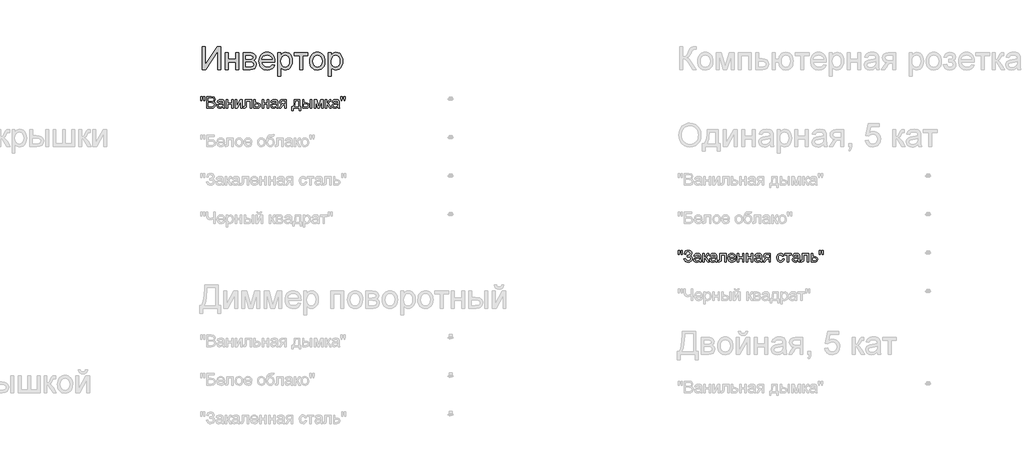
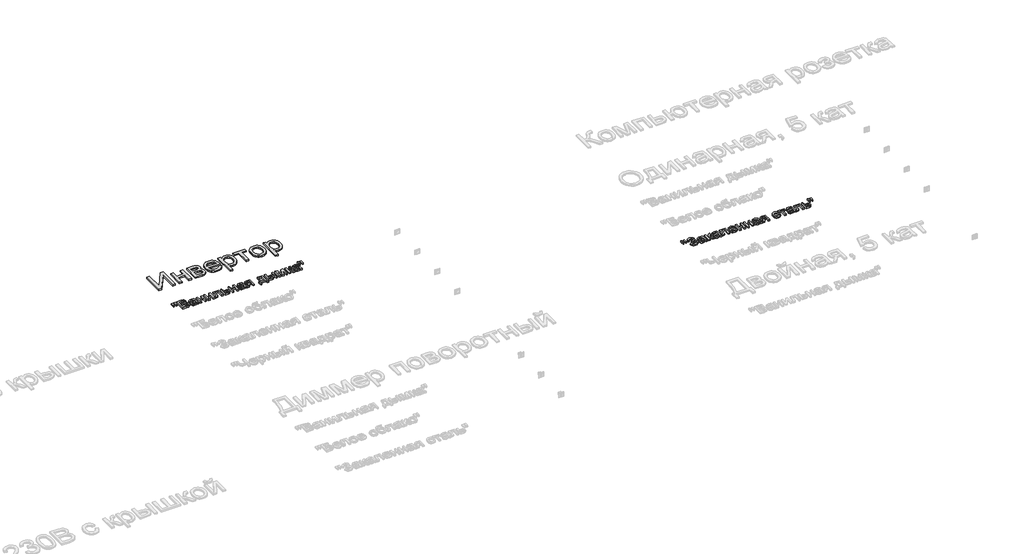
# One storey, part 165 of 168: 3 proxies.
"""IFC4 building model written with IfcOpenShell, lengths in millimetres."""

from ifc_helpers import new_model, si_unit, origin, origin_with_axes, place, context, project, spatial, polyline, outline, extrude, element, save

model = new_model("IFC4")

# Units and contexts
model_context = context("Model", 3, world=origin())
ifc_project = project(units=[si_unit("LENGTHUNIT", "METRE", prefix="MILLI")], contexts=[model_context])

# Site, building, storey
site = spatial("IfcSite", under=ifc_project)
building = spatial("IfcBuilding", under=site)
storey = spatial("IfcBuildingStorey", under=building, Name="Этаж 01", Elevation=0.0)

# Proxies
placement = place(None, origin())
element("IfcBuildingElementProxy", 1, Name="300 мм Arial 2", ObjectType="300 мм Arial 2", at=placement, inside=storey, context=model_context, shape_type="SweptSolid", body=[
    extrude(outline(polyline([(71099.0945017, -4747.0367511), (71136.765618, -4747.0367511), (71136.765618, -4985.7185896), (71294.5134175, -4747.0367511), (71334.5389786, -4747.0367511), (71334.5389786, -5048.4056816), (71296.8678623, -5048.4056816), (71296.8678623, -4810.3860307), (71139.4879447, -5048.4056816), (71099.0945017, -5048.4056816), (71099.0945017, -4747.0367511)])), origin_with_axes(), (0.0, 0.0, 1.0), 20.0),
    extrude(outline(polyline([(71395.7545426, -4827.0878733), (71433.4256589, -4827.0878733), (71433.4256589, -4911.847885), (71532.3123392, -4911.847885), (71532.3123392, -4827.0878733), (71569.9834555, -4827.0878733), (71569.9834555, -5048.4056816), (71532.3123392, -5048.4056816), (71532.3123392, -4949.5190013), (71433.4256589, -4949.5190013), (71433.4256589, -5048.4056816), (71395.7545426, -5048.4056816), (71395.7545426, -4827.0878733)])), origin_with_axes(), (0.0, 0.0, 1.0), 20.0),
    extrude(outline(polyline([(71626.4901299, -4827.0878733), (71709.4843081, -4827.0878733), (71736.1649498, -4828.3478691), (71754.9913109, -4832.1278566), (71768.842068, -4839.2647673), (71780.5958977, -4850.5955328), (71788.6249223, -4865.3567978), (71791.3012638, -4882.7852073), (71789.682583, -4896.8291025), (71784.8265407, -4908.9416172), (71776.7147427, -4919.1779337), (71765.3287949, -4927.5932344), (71779.2715225, -4935.4199238), (71790.6390762, -4948.0106851), (71798.1990512, -4964.3722368), (71800.7190429, -4983.5112976), (71794.3362902, -5012.2244873), (71779.1611579, -5032.439603), (71755.1384637, -5044.4141619), (71722.2130251, -5048.4056816), (71626.4901299, -5048.4056816), (71626.4901299, -4827.0878733)]), holes=[polyline([(71664.1612462, -4911.847885), (71701.3909042, -4911.847885), (71732.1090508, -4909.9348986), (71747.0450598, -4902.2829531), (71751.9838755, -4895.9553828), (71753.6301475, -4888.4505901), (71750.7422738, -4877.2117951), (71742.0786528, -4869.9829139), (71726.4252739, -4866.0649707), (71702.5681265, -4864.7589896), (71664.1612462, -4864.7589896), (71664.1612462, -4911.847885)]), polyline([(71664.1612462, -5010.7345653), (71710.3672248, -5010.7345653), (71735.5487474, -5009.033111), (71751.3492791, -5003.9287484), (71759.8289591, -4994.648925), (71763.0479266, -4980.4210889), (71761.4384428, -4970.9941127), (71756.6099916, -4962.2845065), (71749.1971694, -4955.4694925), (71739.8345727, -4951.7262932), (71706.6884049, -4949.5190013), (71664.1612462, -4949.5190013), (71664.1612462, -5010.7345653)])]), origin_with_axes(), (0.0, 0.0, 1.0), 20.0),
    extrude(outline(polyline([(72002.7598346, -4982.481228), (72039.6951869, -4987.1901176), (72026.3870558, -5015.0203905), (72005.1510676, -5035.8241173), (71976.465469, -5048.7919577), (71940.8085066, -5053.1145711), (71917.4342044, -5051.2498692), (71896.6074849, -5045.6557637), (71878.3283483, -5036.3322543), (71862.5967944, -5023.2793413), (71849.9462523, -5006.860308), (71840.9101508, -4987.4384379), (71835.4884899, -4965.013731), (71833.6812696, -4939.5861874), (71835.506884, -4913.2964203), (71840.9837272, -4890.1244531), (71850.1117992, -4870.0702859), (71862.8911, -4853.1339185), (71878.5812671, -4839.6786346), (71896.441938, -4830.0677174), (71916.4731126, -4824.3011672), (71938.6747911, -4822.3789837), (71960.1613988, -4824.2965686), (71979.592466, -4830.0493233), (71996.9679924, -4839.6372478), (72012.2879783, -4853.0603421), (72024.7936669, -4869.9599213), (72033.7263016, -4889.9773003), (72039.0858824, -4913.1124793), (72040.8724093, -4939.3654582), (72040.6516801, -4949.5190013), (71871.3523859, -4949.5190013), (71877.8730943, -4977.7171562), (71893.0206354, -4998.4473066), (71914.882023, -5011.1944178), (71941.5442706, -5015.4434548), (71961.5938393, -5013.4752861), (71978.4796229, -5007.5707801), (71992.2016213, -4997.3620547), (72002.7598346, -4982.481228)]), holes=[polyline([(71871.3523859, -4911.847885), (72003.201293, -4911.847885), (71998.1061274, -4891.945469), (71988.1181312, -4877.7084358), (71966.1555761, -4864.464684), (71938.5276383, -4860.0501), (71913.1345835, -4863.5725701), (71892.1377187, -4874.1399805), (71877.5420005, -4890.6118968), (71871.3523859, -4911.847885)])]), origin_with_axes(), (0.0, 0.0, 1.0), 20.0),
    extrude(outline(polyline([(72078.5435256, -5133.1656933), (72078.5435256, -4827.0878733), (72116.2146419, -4827.0878733), (72116.2146419, -4864.0232256), (72128.5019006, -4845.8038698), (72142.2606872, -4832.7900442), (72158.3003422, -4824.9817488), (72177.4302059, -4822.3789837), (72202.9060341, -4826.0210155), (72225.1812889, -4836.9471107), (72243.3178713, -4854.4950819), (72256.3776821, -4878.0027414), (72264.2687509, -4905.7594379), (72266.8991071, -4936.0545202), (72263.92846, -4968.271786), (72255.0165187, -4997.0861432), (72240.4483917, -5021.0352611), (72220.5091876, -5038.6568087), (72197.2866366, -5049.5001305), (72172.8684692, -5053.1145711), (72155.5504243, -5050.695747), (72140.0901834, -5043.4392746), (72126.8556286, -5032.4855882), (72116.2146419, -5018.975122), (72116.2146419, -5133.1656933), (72078.5435256, -5133.1656933)]), holes=[polyline([(72116.2146419, -4939.512611), (72120.288935, -4973.2841782), (72132.5118143, -4996.9022022), (72150.5472291, -5010.8081417), (72172.0591288, -5015.4434548), (72193.9205164, -5010.6425948), (72212.4157837, -4996.2400147), (72225.024939, -4971.7574679), (72229.2279908, -4936.7167078), (72225.1261066, -4903.1290817), (72212.8204539, -4879.1799638), (72194.8126302, -4864.832566), (72173.6042332, -4860.0501), (72152.3130627, -4865.1360686), (72133.6154603, -4880.3939744), (72120.5648465, -4905.3455707), (72116.2146419, -4939.512611)])]), origin_with_axes(), (0.0, 0.0, 1.0), 20.0),
    extrude(outline(polyline([(72290.4435548, -4827.0878733), (72469.3813573, -4827.0878733), (72469.3813573, -4864.7589896), (72398.7480142, -4864.7589896), (72398.7480142, -5048.4056816), (72361.0768979, -5048.4056816), (72361.0768979, -4864.7589896), (72290.4435548, -4864.7589896), (72290.4435548, -4827.0878733)])), origin_with_axes(), (0.0, 0.0, 1.0), 20.0),
    extrude(outline(polyline([(72492.925805, -4937.7467774), (72494.9629515, -4909.0841715), (72501.0743912, -4884.385494), (72511.2601239, -4863.6507451), (72525.5201498, -4846.8799246), (72539.8767446, -4836.160763), (72555.7232616, -4828.504219), (72573.0597006, -4823.9102925), (72591.8860617, -4822.3789837), (72612.6690952, -4824.2436856), (72631.4609673, -4829.8377912), (72648.2616782, -4839.1613005), (72663.0712278, -4852.2142135), (72675.1584506, -4868.5550719), (72683.7921811, -4887.7424172), (72688.9724195, -4909.7762495), (72690.6991656, -4934.6565687), (72687.645745, -4972.7139611), (72678.4854834, -5001.6846682), (72663.485095, -5023.3805088), (72642.9112944, -5039.6133019), (72618.4747329, -5049.7392538), (72591.8860617, -5053.1145711), (72570.7995256, -5051.256767), (72551.8329095, -5045.6833548), (72534.9862133, -5036.3943344), (72520.2594372, -5023.3897059), (72508.3009731, -5006.8901984), (72499.759213, -4987.1165412), (72494.634157, -4964.0687342), (72492.925805, -4937.7467774)]), holes=[polyline([(72530.5969213, -4937.673201), (72534.9563229, -4971.7666649), (72548.0345279, -4996.0560737), (72567.7162146, -5010.5966095), (72591.8860617, -5015.4434548), (72615.9455442, -5010.5690184), (72635.5904427, -4995.9457091), (72648.6686476, -4971.3344036), (72653.0280493, -4936.4959786), (72648.6410565, -4903.3957961), (72635.4800781, -4879.4374812), (72615.8075884, -4864.8969453), (72591.8860617, -4860.0501), (72567.7162146, -4864.8785512), (72548.0345279, -4879.3639048), (72534.9563229, -4903.5981312), (72530.5969213, -4937.673201)])]), origin_with_axes(), (0.0, 0.0, 1.0), 20.0),
    extrude(outline(polyline([(72733.0791714, -5133.1656933), (72733.0791714, -4827.0878733), (72770.7502877, -4827.0878733), (72770.7502877, -4864.0232256), (72783.0375464, -4845.8038698), (72796.796333, -4832.7900442), (72812.835988, -4824.9817488), (72831.9658517, -4822.3789837), (72857.4416799, -4826.0210155), (72879.7169347, -4836.9471107), (72897.8535171, -4854.4950819), (72910.9133279, -4878.0027414), (72918.8043967, -4905.7594379), (72921.434753, -4936.0545202), (72918.4641059, -4968.271786), (72909.5521645, -4997.0861432), (72894.9840375, -5021.0352611), (72875.0448334, -5038.6568087), (72851.8222824, -5049.5001305), (72827.404115, -5053.1145711), (72810.0860701, -5050.695747), (72794.6258292, -5043.4392746), (72781.3912745, -5032.4855882), (72770.7502877, -5018.975122), (72770.7502877, -5133.1656933), (72733.0791714, -5133.1656933)]), holes=[polyline([(72770.7502877, -4939.512611), (72774.8245808, -4973.2841782), (72787.0474601, -4996.9022022), (72805.0828749, -5010.8081417), (72826.5947746, -5015.4434548), (72848.4561622, -5010.6425948), (72866.9514295, -4996.2400147), (72879.5605849, -4971.7574679), (72883.7636367, -4936.7167078), (72879.6617524, -4903.1290817), (72867.3560997, -4879.1799638), (72849.348276, -4864.832566), (72828.139879, -4860.0501), (72806.8487085, -4865.1360686), (72788.1511061, -4880.3939744), (72775.1004923, -4905.3455707), (72770.7502877, -4939.512611)])]), origin_with_axes(), (0.0, 0.0, 1.0), 20.0),
])
element("IfcBuildingElementProxy", 2, Name="150", ObjectType="150", at=placement, inside=storey, context=model_context, shape_type="SweptSolid", body=[
    extrude(outline(polyline([(71080.1485789, -5451.873446), (71075.550054, -5422.7739802), (71075.550054, -5397.7212163), (71094.3856121, -5397.7212163), (71094.3856121, -5422.7739802), (71090.2653338, -5451.873446), (71080.1485789, -5451.873446)])), origin_with_axes(), (0.0, 0.0, 1.0), 20.0),
    extrude(outline(polyline([(71117.7093306, -5451.873446), (71113.2211703, -5422.7739802), (71113.2211703, -5397.7212163), (71132.0567284, -5397.7212163), (71132.0567284, -5422.7739802), (71127.6421445, -5451.873446), (71117.7093306, -5451.873446)])), origin_with_axes(), (0.0, 0.0, 1.0), 20.0),
    extrude(outline(polyline([(71157.9556209, -5548.4056816), (71157.9556209, -5397.7212163), (71215.4555767, -5397.7212163), (71243.6169435, -5402.1541944), (71253.0807078, -5407.7781904), (71260.2452096, -5415.7842223), (71266.2600803, -5435.0612389), (71261.2017028, -5452.6643923), (71245.9162059, -5466.0001146), (71256.5893823, -5471.5735269), (71264.4758526, -5480.0532069), (71269.3456905, -5490.8781346), (71270.9689698, -5503.48729), (71266.5359918, -5523.7391938), (71255.5547142, -5538.160168), (71239.1655713, -5545.8121135), (71215.0141183, -5548.4056816), (71157.9556209, -5548.4056816)]), holes=[polyline([(71176.791179, -5458.9367803), (71211.1881456, -5458.9367803), (71231.2745025, -5457.3180996), (71243.3594261, -5450.3467358), (71247.4245221, -5438.0778712), (71243.6353376, -5425.7906126), (71232.7828187, -5418.5249432), (71208.5761834, -5416.5567745), (71176.791179, -5416.5567745), (71176.791179, -5458.9367803)]), polyline([(71176.791179, -5529.5701234), (71215.4187885, -5529.5701234), (71229.3983043, -5528.8343594), (71241.2257105, -5524.7324752), (71249.061597, -5516.3631598), (71252.1334117, -5503.671231), (71248.5281681, -5489.0295275), (71236.8479148, -5480.2923302), (71213.5793786, -5477.7723385), (71176.791179, -5477.7723385), (71176.791179, -5529.5701234)])]), origin_with_axes(), (0.0, 0.0, 1.0), 20.0),
    extrude(outline(polyline([(71365.1467606, -5534.279013), (71346.8814195, -5547.0445182), (71326.7030921, -5550.7601263), (71310.9623412, -5548.5252432), (71299.3510657, -5541.8205939), (71292.1911624, -5531.6394596), (71289.804528, -5518.975122), (71293.4097715, -5504.0759012), (71302.8827329, -5493.2601705), (71316.0713024, -5487.079753), (71332.3684748, -5484.2470616), (71365.036396, -5477.7723385), (71365.1467606, -5473.5784838), (71363.8499765, -5465.1723802), (71359.9596244, -5459.6725443), (71351.2592153, -5455.5890542), (71339.1375035, -5454.2278908), (71320.0812162, -5457.8515285), (71310.9945309, -5470.7090042), (71292.1589727, -5468.3545594), (71300.3075589, -5449.9604597), (71316.7150959, -5439.1815172), (71341.5655247, -5435.3923327), (71364.3926025, -5438.7400588), (71377.2868664, -5447.1461624), (71383.0626137, -5459.9300617), (71383.9823187, -5476.4111751), (71383.9823187, -5499.8452582), (71384.9388119, -5532.5683617), (71388.6912083, -5548.4056816), (71369.8556501, -5548.4056816), (71365.1467606, -5534.279013)]), holes=[polyline([(71365.1467606, -5496.6078966), (71334.7597078, -5502.383644), (71318.5545059, -5505.4370645), (71311.2152601, -5510.4034715), (71308.6400861, -5517.6507468), (71314.2502865, -5527.841078), (71330.7130058, -5531.9245682), (71349.7692932, -5527.4180137), (71362.0565518, -5516.5103126), (71365.036396, -5501.9421856), (71365.1467606, -5496.6078966)])]), origin_with_axes(), (0.0, 0.0, 1.0), 20.0),
    extrude(outline(polyline([(71409.8812112, -5437.7467774), (71428.7167693, -5437.7467774), (71428.7167693, -5480.1267833), (71478.1601095, -5480.1267833), (71478.1601095, -5437.7467774), (71496.9956676, -5437.7467774), (71496.9956676, -5548.4056816), (71478.1601095, -5548.4056816), (71478.1601095, -5498.9623414), (71428.7167693, -5498.9623414), (71428.7167693, -5548.4056816), (71409.8812112, -5548.4056816), (71409.8812112, -5437.7467774)])), origin_with_axes(), (0.0, 0.0, 1.0), 20.0),
    extrude(outline(polyline([(71525.2490049, -5437.7467774), (71544.084563, -5437.7467774), (71544.084563, -5522.1389071), (71590.364118, -5437.7467774), (71614.7179061, -5437.7467774), (71614.7179061, -5548.4056816), (71595.8823479, -5548.4056816), (71595.8823479, -5464.5285867), (71549.8970985, -5548.4056816), (71525.2490049, -5548.4056816), (71525.2490049, -5437.7467774)])), origin_with_axes(), (0.0, 0.0, 1.0), 20.0),
    extrude(outline(polyline([(71652.3890224, -5437.7467774), (71737.1490341, -5437.7467774), (71737.1490341, -5548.295317), (71718.3134759, -5548.295317), (71718.3134759, -5456.5823356), (71671.2245806, -5456.5823356), (71671.2245806, -5509.3734019), (71669.9553877, -5533.72719), (71662.9840239, -5544.0094917), (71646.5029105, -5548.4056816), (71631.1990195, -5547.4491884), (71631.1990195, -5529.5701234), (71639.6235172, -5529.5701234), (71648.1399854, -5528.4112951), (71651.5428938, -5524.7324752), (71652.3890224, -5508.3065441), (71652.3890224, -5437.7467774)])), origin_with_axes(), (0.0, 0.0, 1.0), 20.0),
    extrude(outline(polyline([(71765.4023713, -5437.7467774), (71784.2379295, -5437.7467774), (71784.2379295, -5477.7723385), (71805.9429672, -5477.7723385), (71824.7601312, -5480.1313818), (71838.6844648, -5487.2085117), (71847.2929034, -5498.433511), (71850.162383, -5513.2361628), (71847.7205663, -5526.7144394), (71840.395116, -5538.0865916), (71827.6985887, -5545.8259091), (71809.1435405, -5548.4056816), (71765.4023713, -5548.4056816), (71765.4023713, -5437.7467774)]), holes=[polyline([(71784.2379295, -5529.5701234), (71801.8226888, -5529.5701234), (71824.539402, -5525.615392), (71829.6299692, -5520.552416), (71831.3268249, -5513.272951), (71826.3052356, -5501.6846682), (71818.2348244, -5497.8770895), (71804.066769, -5496.6078966), (71784.2379295, -5496.6078966), (71784.2379295, -5529.5701234)])]), origin_with_axes(), (0.0, 0.0, 1.0), 20.0),
    extrude(outline(polyline([(71873.7068307, -5437.7467774), (71892.5423889, -5437.7467774), (71892.5423889, -5480.1267833), (71941.985729, -5480.1267833), (71941.985729, -5437.7467774), (71960.8212872, -5437.7467774), (71960.8212872, -5548.4056816), (71941.985729, -5548.4056816), (71941.985729, -5498.9623414), (71892.5423889, -5498.9623414), (71892.5423889, -5548.4056816), (71873.7068307, -5548.4056816), (71873.7068307, -5437.7467774)])), origin_with_axes(), (0.0, 0.0, 1.0), 20.0),
    extrude(outline(polyline([(72059.7079675, -5534.279013), (72041.4426264, -5547.0445182), (72021.264299, -5550.7601263), (72005.5235481, -5548.5252432), (71993.9122726, -5541.8205939), (71986.7523693, -5531.6394596), (71984.3657349, -5518.975122), (71987.9709784, -5504.0759012), (71997.4439398, -5493.2601705), (72010.6325093, -5487.079753), (72026.9296817, -5484.2470616), (72059.5976029, -5477.7723385), (72059.7079675, -5473.5784838), (72058.4111834, -5465.1723802), (72054.5208313, -5459.6725443), (72045.8204221, -5455.5890542), (72033.6987104, -5454.2278908), (72014.6424231, -5457.8515285), (72005.5557378, -5470.7090042), (71986.7201796, -5468.3545594), (71994.8687658, -5449.9604597), (72011.2763028, -5439.1815172), (72036.1267316, -5435.3923327), (72058.9538094, -5438.7400588), (72071.8480733, -5447.1461624), (72077.6238206, -5459.9300617), (72078.5435256, -5476.4111751), (72078.5435256, -5499.8452582), (72079.5000188, -5532.5683617), (72083.2524152, -5548.4056816), (72064.416857, -5548.4056816), (72059.7079675, -5534.279013)]), holes=[polyline([(72059.7079675, -5496.6078966), (72029.3209147, -5502.383644), (72013.1157128, -5505.4370645), (72005.776467, -5510.4034715), (72003.201293, -5517.6507468), (72008.8114934, -5527.841078), (72025.2742127, -5531.9245682), (72044.3305001, -5527.4180137), (72056.6177587, -5516.5103126), (72059.5976029, -5501.9421856), (72059.7079675, -5496.6078966)])]), origin_with_axes(), (0.0, 0.0, 1.0), 20.0),
    extrude(outline(polyline([(72189.2024298, -5437.7467774), (72189.2024298, -5548.4056816), (72170.3668716, -5548.4056816), (72170.3668716, -5506.0256757), (72160.1029639, -5506.0256757), (72146.1234481, -5508.4169087), (72132.9900609, -5524.4933519), (72117.9804755, -5548.4056816), (72096.2018614, -5548.4056816), (72115.1109959, -5518.1657816), (72123.4619172, -5507.3132627), (72131.1506509, -5502.4940086), (72118.2747811, -5498.5484742), (72109.224884, -5491.0528785), (72103.872201, -5481.0832765), (72102.0879733, -5469.7157228), (72104.5251915, -5456.8214589), (72111.8368462, -5446.6127335), (72123.7654199, -5439.9632664), (72140.0533952, -5437.7467774), (72189.2024298, -5437.7467774)]), holes=[polyline([(72170.3668716, -5456.5823356), (72145.5348369, -5456.5823356), (72132.7095509, -5457.672186), (72125.4300859, -5460.9417372), (72120.9235315, -5471.1504626), (72122.583599, -5478.32876), (72127.5638015, -5483.3089625), (72151.0898551, -5487.1901176), (72170.3668716, -5487.1901176), (72170.3668716, -5456.5823356)])]), origin_with_axes(), (0.0, 0.0, 1.0), 20.0),
    extrude(outline(polyline([(72292.7979996, -5437.7467774), (72363.4313427, -5437.7467774), (72363.4313427, -5529.5701234), (72377.5580113, -5529.5701234), (72377.5580113, -5579.0134636), (72358.7224531, -5579.0134636), (72358.7224531, -5548.4056816), (72281.0257758, -5548.4056816), (72281.0257758, -5579.0134636), (72262.1902176, -5579.0134636), (72262.1902176, -5529.5701234), (72273.9624415, -5529.5701234), (72282.5202964, -5514.105284), (72288.5121744, -5493.6464466), (72292.7979996, -5437.7467774)]), holes=[polyline([(72309.279113, -5456.5823356), (72304.864529, -5499.4957703), (72295.1524444, -5529.5701234), (72344.5957845, -5529.5701234), (72344.5957845, -5456.5823356), (72309.279113, -5456.5823356)])]), origin_with_axes(), (0.0, 0.0, 1.0), 20.0),
    extrude(outline(polyline([(72502.3435841, -5437.7467774), (72521.1791422, -5437.7467774), (72521.1791422, -5548.4056816), (72502.3435841, -5548.4056816), (72502.3435841, -5437.7467774)])), origin_with_axes(), (0.0, 0.0, 1.0), 20.0),
    extrude(outline(polyline([(72398.7480142, -5437.7467774), (72417.5835724, -5437.7467774), (72417.5835724, -5477.7723385), (72440.8705027, -5477.7723385), (72460.9982463, -5480.1313818), (72475.9112627, -5487.2085117), (72485.1405023, -5498.433511), (72488.2169154, -5513.2361628), (72485.637143, -5526.7144394), (72477.8978255, -5538.0865916), (72464.4931253, -5545.8259091), (72444.9172046, -5548.4056816), (72398.7480142, -5548.4056816), (72398.7480142, -5437.7467774)]), holes=[polyline([(72417.5835724, -5529.5701234), (72436.9341653, -5529.5701234), (72461.9133528, -5525.615392), (72467.5143562, -5520.552416), (72469.3813573, -5513.272951), (72463.8447333, -5501.6846682), (72454.9649816, -5497.8770895), (72439.3989747, -5496.6078966), (72417.5835724, -5496.6078966), (72417.5835724, -5529.5701234)])]), origin_with_axes(), (0.0, 0.0, 1.0), 20.0),
    extrude(outline(polyline([(72549.4324794, -5437.7467774), (72581.8428832, -5437.7467774), (72606.8220707, -5526.3327619), (72633.7510327, -5437.7467774), (72664.8002731, -5437.7467774), (72664.8002731, -5548.4056816), (72645.964715, -5548.4056816), (72645.964715, -5459.3046623), (72618.8886001, -5548.4056816), (72594.1669301, -5548.4056816), (72568.2680376, -5455.0372312), (72568.2680376, -5548.4056816), (72549.4324794, -5548.4056816), (72549.4324794, -5437.7467774)])), origin_with_axes(), (0.0, 0.0, 1.0), 20.0),
    extrude(outline(polyline([(72693.0536104, -5437.7467774), (72711.8891685, -5437.7467774), (72711.8891685, -5484.8356728), (72724.5075209, -5481.4511584), (72734.845005, -5461.7326835), (72743.4350496, -5444.7181412), (72751.0134187, -5439.1815172), (72764.7905994, -5437.7467774), (72768.395843, -5437.7467774), (72768.395843, -5456.6927002), (72763.3190714, -5456.5823356), (72754.1220216, -5458.5688983), (72747.6472984, -5470.9665216), (72740.0505352, -5484.3758203), (72729.4003515, -5490.9425139), (72741.2829399, -5498.2725627), (72752.9447992, -5513.7144094), (72773.1047325, -5548.4056816), (72751.6940004, -5548.4056816), (72731.9387373, -5514.4501734), (72722.0059234, -5500.0843815), (72711.8891685, -5496.6078966), (72711.8891685, -5548.4056816), (72693.0536104, -5548.4056816), (72693.0536104, -5437.7467774)])), origin_with_axes(), (0.0, 0.0, 1.0), 20.0),
    extrude(outline(polyline([(72855.5102994, -5534.279013), (72837.2449584, -5547.0445182), (72817.0666309, -5550.7601263), (72801.3258801, -5548.5252432), (72789.7146046, -5541.8205939), (72782.5547013, -5531.6394596), (72780.1680668, -5518.975122), (72783.7733104, -5504.0759012), (72793.2462717, -5493.2601705), (72806.4348413, -5487.079753), (72822.7320137, -5484.2470616), (72855.3999348, -5477.7723385), (72855.5102994, -5473.5784838), (72854.2135154, -5465.1723802), (72850.3231633, -5459.6725443), (72841.6227541, -5455.5890542), (72829.5010424, -5454.2278908), (72810.444755, -5457.8515285), (72801.3580697, -5470.7090042), (72782.5225116, -5468.3545594), (72790.6710978, -5449.9604597), (72807.0786348, -5439.1815172), (72831.9290635, -5435.3923327), (72854.7561413, -5438.7400588), (72867.6504053, -5447.1461624), (72873.4261526, -5459.9300617), (72874.3458576, -5476.4111751), (72874.3458576, -5499.8452582), (72875.3023508, -5532.5683617), (72879.0547471, -5548.4056816), (72860.219189, -5548.4056816), (72855.5102994, -5534.279013)]), holes=[polyline([(72855.5102994, -5496.6078966), (72825.1232466, -5502.383644), (72808.9180447, -5505.4370645), (72801.5787989, -5510.4034715), (72799.003625, -5517.6507468), (72804.6138254, -5527.841078), (72821.0765447, -5531.9245682), (72840.132832, -5527.4180137), (72852.4200907, -5516.5103126), (72855.3999348, -5501.9421856), (72855.5102994, -5496.6078966)])]), origin_with_axes(), (0.0, 0.0, 1.0), 20.0),
    extrude(outline(polyline([(72900.1343854, -5451.873446), (72895.5358605, -5422.7739802), (72895.5358605, -5397.7212163), (72914.3714187, -5397.7212163), (72914.3714187, -5422.7739802), (72910.2511403, -5451.873446), (72900.1343854, -5451.873446)])), origin_with_axes(), (0.0, 0.0, 1.0), 20.0),
    extrude(outline(polyline([(72937.6951372, -5451.873446), (72933.2069768, -5422.7739802), (72933.2069768, -5397.7212163), (72952.042535, -5397.7212163), (72952.042535, -5422.7739802), (72947.627951, -5451.873446), (72937.6951372, -5451.873446)])), origin_with_axes(), (0.0, 0.0, 1.0), 20.0),
])
element("IfcBuildingElementProxy", 3, Name="150", ObjectType="150", at=placement, inside=storey, context=model_context, shape_type="SweptSolid", body=[
    extrude(outline(polyline([(77280.1485789, -7451.873446), (77275.550054, -7422.7739802), (77275.550054, -7397.7212163), (77294.3856121, -7397.7212163), (77294.3856121, -7422.7739802), (77290.2653338, -7451.873446), (77280.1485789, -7451.873446)])), origin_with_axes(), (0.0, 0.0, 1.0), 20.0),
    extrude(outline(polyline([(77317.7093306, -7451.873446), (77313.2211703, -7422.7739802), (77313.2211703, -7397.7212163), (77332.0567284, -7397.7212163), (77332.0567284, -7422.7739802), (77327.6421445, -7451.873446), (77317.7093306, -7451.873446)])), origin_with_axes(), (0.0, 0.0, 1.0), 20.0),
    extrude(outline(polyline([(77350.8922866, -7506.0256757), (77369.7278447, -7501.3167862), (77381.2977335, -7521.7158428), (77392.2284273, -7529.3723868), (77406.2217387, -7531.9245682), (77420.398991, -7530.0069833), (77431.2193202, -7524.2542286), (77438.0757209, -7515.7883442), (77440.3611878, -7505.7313701), (77437.8641888, -7495.1961495), (77430.3731916, -7487.0613589), (77418.5779752, -7481.8604272), (77403.1683181, -7480.1267833), (77393.2722924, -7480.1267833), (77393.2722924, -7461.2912251), (77414.591054, -7459.7645148), (77427.6324708, -7451.9654165), (77433.2978535, -7437.7099892), (77431.4124583, -7428.8394346), (77425.7562726, -7421.2104817), (77416.8811195, -7415.9543677), (77405.3388219, -7414.2023297), (77386.1169876, -7419.591801), (77375.117316, -7433.8840165), (77372.0822895, -7447.1645565), (77353.2467313, -7442.455667), (77359.0983543, -7421.8542752), (77369.7002536, -7407.1389954), (77385.0524291, -7398.3098275), (77405.1548809, -7395.3667716), (77424.5468605, -7398.4247907), (77439.4598769, -7407.5988479), (77448.965028, -7420.8655924), (77452.1334117, -7436.201673), (77447.2037929, -7454.8440931), (77432.4149367, -7468.7592296), (77442.8903765, -7473.5830823), (77451.5080123, -7481.7270699), (77457.2745625, -7492.4922168), (77459.196746, -7505.1795471), (77455.508729, -7523.0172254), (77444.444678, -7537.6819214), (77427.2921799, -7547.4905751), (77405.3388219, -7550.7601263), (77386.2365493, -7547.9642232), (77370.7947025, -7539.5765137), (77359.0132816, -7525.5969979), (77350.8922866, -7506.0256757)])), origin_with_axes(), (0.0, 0.0, 1.0), 20.0),
    extrude(outline(polyline([(77553.3745367, -7534.279013), (77535.1091957, -7547.0445182), (77514.9308682, -7550.7601263), (77499.1901174, -7548.5252432), (77487.5788419, -7541.8205939), (77480.4189386, -7531.6394596), (77478.0323041, -7518.975122), (77481.6375477, -7504.0759012), (77491.110509, -7493.2601705), (77504.2990786, -7487.079753), (77520.596251, -7484.2470616), (77553.2641721, -7477.7723385), (77553.3745367, -7473.5784838), (77552.0777527, -7465.1723802), (77548.1874006, -7459.6725443), (77539.4869914, -7455.5890542), (77527.3652797, -7454.2278908), (77508.3089923, -7457.8515285), (77499.222307, -7470.7090042), (77480.3867489, -7468.3545594), (77488.5353351, -7449.9604597), (77504.9428721, -7439.1815172), (77529.7933008, -7435.3923327), (77552.6203786, -7438.7400588), (77565.5146426, -7447.1461624), (77571.2903899, -7459.9300617), (77572.2100949, -7476.4111751), (77572.2100949, -7499.8452582), (77573.1665881, -7532.5683617), (77576.9189844, -7548.4056816), (77558.0834263, -7548.4056816), (77553.3745367, -7534.279013)]), holes=[polyline([(77553.3745367, -7496.6078966), (77522.9874839, -7502.383644), (77506.782282, -7505.4370645), (77499.4430362, -7510.4034715), (77496.8678623, -7517.6507468), (77502.4780627, -7527.841078), (77518.940782, -7531.9245682), (77537.9970693, -7527.4180137), (77550.284328, -7516.5103126), (77553.2641721, -7501.9421856), (77553.3745367, -7496.6078966)])]), origin_with_axes(), (0.0, 0.0, 1.0), 20.0),
    extrude(outline(polyline([(77598.1089873, -7437.7467774), (77616.9445455, -7437.7467774), (77616.9445455, -7484.8356728), (77629.5628979, -7481.4511584), (77639.900382, -7461.7326835), (77648.4904266, -7444.7181412), (77656.0687957, -7439.1815172), (77669.8459764, -7437.7467774), (77673.4512199, -7437.7467774), (77673.4512199, -7456.6927002), (77668.3744484, -7456.5823356), (77659.1773985, -7458.5688983), (77652.7026754, -7470.9665216), (77645.1059122, -7484.3758203), (77634.4557285, -7490.9425139), (77646.3383169, -7498.2725627), (77658.0001762, -7513.7144094), (77678.1601095, -7548.4056816), (77656.7493774, -7548.4056816), (77636.9941142, -7514.4501734), (77627.0613004, -7500.0843815), (77616.9445455, -7496.6078966), (77616.9445455, -7548.4056816), (77598.1089873, -7548.4056816), (77598.1089873, -7437.7467774)])), origin_with_axes(), (0.0, 0.0, 1.0), 20.0),
    extrude(outline(polyline([(77760.5656764, -7534.279013), (77742.3003353, -7547.0445182), (77722.1220079, -7550.7601263), (77706.381257, -7548.5252432), (77694.7699816, -7541.8205939), (77687.6100782, -7531.6394596), (77685.2234438, -7518.975122), (77688.8286873, -7504.0759012), (77698.3016487, -7493.2601705), (77711.4902183, -7487.079753), (77727.7873906, -7484.2470616), (77760.4553118, -7477.7723385), (77760.5656764, -7473.5784838), (77759.2688924, -7465.1723802), (77755.3785403, -7459.6725443), (77746.6781311, -7455.5890542), (77734.5564193, -7454.2278908), (77715.500132, -7457.8515285), (77706.4134467, -7470.7090042), (77687.5778886, -7468.3545594), (77695.7264748, -7449.9604597), (77712.1340117, -7439.1815172), (77736.9844405, -7435.3923327), (77759.8115183, -7438.7400588), (77772.7057822, -7447.1461624), (77778.4815296, -7459.9300617), (77779.4012346, -7476.4111751), (77779.4012346, -7499.8452582), (77780.3577277, -7532.5683617), (77784.1101241, -7548.4056816), (77765.2745659, -7548.4056816), (77760.5656764, -7534.279013)]), holes=[polyline([(77760.5656764, -7496.6078966), (77730.1786236, -7502.383644), (77713.9734217, -7505.4370645), (77706.6341759, -7510.4034715), (77704.0590019, -7517.6507468), (77709.6692024, -7527.841078), (77726.1319217, -7531.9245682), (77745.188209, -7527.4180137), (77757.4754676, -7516.5103126), (77760.4553118, -7501.9421856), (77760.5656764, -7496.6078966)])]), origin_with_axes(), (0.0, 0.0, 1.0), 20.0),
    extrude(outline(polyline([(77814.7179061, -7437.7467774), (77899.4779178, -7437.7467774), (77899.4779178, -7548.295317), (77880.6423596, -7548.295317), (77880.6423596, -7456.5823356), (77833.5534643, -7456.5823356), (77833.5534643, -7509.3734019), (77832.2842714, -7533.72719), (77825.3129076, -7544.0094917), (77808.8317942, -7548.4056816), (77793.5279032, -7547.4491884), (77793.5279032, -7529.5701234), (77801.9524009, -7529.5701234), (77810.4688691, -7528.4112951), (77813.8717775, -7524.7324752), (77814.7179061, -7508.3065441), (77814.7179061, -7437.7467774)])), origin_with_axes(), (0.0, 0.0, 1.0), 20.0),
    extrude(outline(polyline([(78005.2072032, -7515.4434548), (78023.6748794, -7517.7978996), (78017.0208138, -7531.713036), (78006.4028197, -7542.1148995), (77992.0600204, -7548.5988196), (77974.2315392, -7550.7601263), (77952.1310283, -7547.0307226), (77935.1256831, -7535.8425114), (77924.2823613, -7517.9220597), (77920.6679207, -7493.9959345), (77924.3191495, -7469.2650674), (77935.2728359, -7450.7698), (77952.0482549, -7439.2366995), (77973.1646814, -7435.3923327), (77993.6235189, -7439.2275025), (78009.971275, -7450.7330118), (78020.6904367, -7469.191491), (78024.2634906, -7493.8855699), (78024.153126, -7498.9623414), (77939.5034789, -7498.9623414), (77942.763833, -7513.0614189), (77950.3376036, -7523.4264941), (77961.2682974, -7529.8000497), (77974.5994212, -7531.9245682), (77993.0670974, -7527.9882308), (78005.2072032, -7515.4434548)]), holes=[polyline([(77939.5034789, -7480.1267833), (78005.4279324, -7480.1267833), (78002.8803496, -7470.1755753), (77997.8863515, -7463.0570587), (77986.9050739, -7456.4351828), (77973.091105, -7454.2278908), (77960.3945777, -7455.9891259), (77949.8961452, -7461.272831), (77942.5982861, -7469.5087892), (77939.5034789, -7480.1267833)])]), origin_with_axes(), (0.0, 0.0, 1.0), 20.0),
    extrude(outline(polyline([(78043.0990487, -7437.7467774), (78061.9346069, -7437.7467774), (78061.9346069, -7480.1267833), (78111.377947, -7480.1267833), (78111.377947, -7437.7467774), (78130.2135052, -7437.7467774), (78130.2135052, -7548.4056816), (78111.377947, -7548.4056816), (78111.377947, -7498.9623414), (78061.9346069, -7498.9623414), (78061.9346069, -7548.4056816), (78043.0990487, -7548.4056816), (78043.0990487, -7437.7467774)])), origin_with_axes(), (0.0, 0.0, 1.0), 20.0),
    extrude(outline(polyline([(78158.4668424, -7437.7467774), (78177.3024005, -7437.7467774), (78177.3024005, -7480.1267833), (78226.7457407, -7480.1267833), (78226.7457407, -7437.7467774), (78245.5812988, -7437.7467774), (78245.5812988, -7548.4056816), (78226.7457407, -7548.4056816), (78226.7457407, -7498.9623414), (78177.3024005, -7498.9623414), (78177.3024005, -7548.4056816), (78158.4668424, -7548.4056816), (78158.4668424, -7437.7467774)])), origin_with_axes(), (0.0, 0.0, 1.0), 20.0),
    extrude(outline(polyline([(78344.4679792, -7534.279013), (78326.2026381, -7547.0445182), (78306.0243107, -7550.7601263), (78290.2835598, -7548.5252432), (78278.6722843, -7541.8205939), (78271.512381, -7531.6394596), (78269.1257465, -7518.975122), (78272.7309901, -7504.0759012), (78282.2039515, -7493.2601705), (78295.392521, -7487.079753), (78311.6896934, -7484.2470616), (78344.3576146, -7477.7723385), (78344.4679792, -7473.5784838), (78343.1711951, -7465.1723802), (78339.280843, -7459.6725443), (78330.5804338, -7455.5890542), (78318.4587221, -7454.2278908), (78299.4024347, -7457.8515285), (78290.3157495, -7470.7090042), (78271.4801913, -7468.3545594), (78279.6287775, -7449.9604597), (78296.0363145, -7439.1815172), (78320.8867433, -7435.3923327), (78343.7138211, -7438.7400588), (78356.608085, -7447.1461624), (78362.3838323, -7459.9300617), (78363.3035373, -7476.4111751), (78363.3035373, -7499.8452582), (78364.2600305, -7532.5683617), (78368.0124268, -7548.4056816), (78349.1768687, -7548.4056816), (78344.4679792, -7534.279013)]), holes=[polyline([(78344.4679792, -7496.6078966), (78314.0809264, -7502.383644), (78297.8757245, -7505.4370645), (78290.5364787, -7510.4034715), (78287.9613047, -7517.6507468), (78293.5715051, -7527.841078), (78310.0342244, -7531.9245682), (78329.0905118, -7527.4180137), (78341.3777704, -7516.5103126), (78344.3576146, -7501.9421856), (78344.4679792, -7496.6078966)])]), origin_with_axes(), (0.0, 0.0, 1.0), 20.0),
    extrude(outline(polyline([(78473.9624415, -7437.7467774), (78473.9624415, -7548.4056816), (78455.1268833, -7548.4056816), (78455.1268833, -7506.0256757), (78444.8629756, -7506.0256757), (78430.8834598, -7508.4169087), (78417.7500726, -7524.4933519), (78402.7404872, -7548.4056816), (78380.9618731, -7548.4056816), (78399.8710076, -7518.1657816), (78408.2219289, -7507.3132627), (78415.9106626, -7502.4940086), (78403.0347928, -7498.5484742), (78393.9848957, -7491.0528785), (78388.6322127, -7481.0832765), (78386.847985, -7469.7157228), (78389.2852032, -7456.8214589), (78396.5968579, -7446.6127335), (78408.5254316, -7439.9632664), (78424.8134069, -7437.7467774), (78473.9624415, -7437.7467774)]), holes=[polyline([(78455.1268833, -7456.5823356), (78430.2948486, -7456.5823356), (78417.4695626, -7457.672186), (78410.1900976, -7460.9417372), (78405.6835431, -7471.1504626), (78407.3436107, -7478.32876), (78412.3238132, -7483.3089625), (78435.8498668, -7487.1901176), (78455.1268833, -7487.1901176), (78455.1268833, -7456.5823356)])]), origin_with_axes(), (0.0, 0.0, 1.0), 20.0),
    extrude(outline(polyline([(78631.710241, -7508.3801205), (78650.5457991, -7510.7345653), (78645.2942837, -7527.4869916), (78635.4258491, -7540.1467308), (78621.8693976, -7548.1067774), (78605.5538311, -7550.7601263), (78585.518058, -7547.0583138), (78569.8508835, -7535.952876), (78559.7387272, -7517.9312568), (78556.3680084, -7493.4808997), (78557.8073467, -7476.7192763), (78562.1253616, -7462.192536), (78569.391031, -7450.4616989), (78579.6733328, -7442.087785), (78591.974387, -7437.0661957), (78605.2963137, -7435.3923327), (78621.2118085, -7437.6915951), (78633.9359271, -7444.5893825), (78643.0639991, -7455.7178129), (78648.1913544, -7470.7090042), (78629.3557962, -7473.063449), (78620.6185988, -7458.9551744), (78605.4434665, -7454.2278908), (78593.271171, -7456.5547444), (78583.6096701, -7463.5353053), (78577.3050924, -7475.5466524), (78575.2035665, -7492.9658649), (78577.2591072, -7510.6196021), (78583.4257291, -7522.672336), (78592.9124861, -7529.6115101), (78604.9284317, -7531.9245682), (78614.6819031, -7530.4806314), (78622.678738, -7526.1488209), (78628.4958721, -7518.8187721), (78631.710241, -7508.3801205)])), origin_with_axes(), (0.0, 0.0, 1.0), 20.0),
    extrude(outline(polyline([(78657.6091334, -7437.7467774), (78747.0780347, -7437.7467774), (78747.0780347, -7456.5823356), (78711.7613631, -7456.5823356), (78711.7613631, -7548.4056816), (78692.925805, -7548.4056816), (78692.925805, -7456.5823356), (78657.6091334, -7456.5823356), (78657.6091334, -7437.7467774)])), origin_with_axes(), (0.0, 0.0, 1.0), 20.0),
    extrude(outline(polyline([(78834.1924911, -7534.279013), (78815.9271501, -7547.0445182), (78795.7488226, -7550.7601263), (78780.0080718, -7548.5252432), (78768.3967963, -7541.8205939), (78761.236893, -7531.6394596), (78758.8502585, -7518.975122), (78762.4555021, -7504.0759012), (78771.9284634, -7493.2601705), (78785.117033, -7487.079753), (78801.4142054, -7484.2470616), (78834.0821265, -7477.7723385), (78834.1924911, -7473.5784838), (78832.8957071, -7465.1723802), (78829.005355, -7459.6725443), (78820.3049458, -7455.5890542), (78808.1832341, -7454.2278908), (78789.1269467, -7457.8515285), (78780.0402614, -7470.7090042), (78761.2047033, -7468.3545594), (78769.3532895, -7449.9604597), (78785.7608265, -7439.1815172), (78810.6112552, -7435.3923327), (78833.438333, -7438.7400588), (78846.332597, -7447.1461624), (78852.1083443, -7459.9300617), (78853.0280493, -7476.4111751), (78853.0280493, -7499.8452582), (78853.9845425, -7532.5683617), (78857.7369388, -7548.4056816), (78838.9013807, -7548.4056816), (78834.1924911, -7534.279013)]), holes=[polyline([(78834.1924911, -7496.6078966), (78803.8054383, -7502.383644), (78787.6002364, -7505.4370645), (78780.2609906, -7510.4034715), (78777.6858167, -7517.6507468), (78783.2960171, -7527.841078), (78799.7587364, -7531.9245682), (78818.8150237, -7527.4180137), (78831.1022824, -7516.5103126), (78834.0821265, -7501.9421856), (78834.1924911, -7496.6078966)])]), origin_with_axes(), (0.0, 0.0, 1.0), 20.0),
    extrude(outline(polyline([(78888.3447208, -7437.7467774), (78973.1047325, -7437.7467774), (78973.1047325, -7548.295317), (78954.2691744, -7548.295317), (78954.2691744, -7456.5823356), (78907.180279, -7456.5823356), (78907.180279, -7509.3734019), (78905.9110861, -7533.72719), (78898.9397223, -7544.0094917), (78882.4586089, -7548.4056816), (78867.1547179, -7547.4491884), (78867.1547179, -7529.5701234), (78875.5792156, -7529.5701234), (78884.0956838, -7528.4112951), (78887.4985922, -7524.7324752), (78888.3447208, -7508.3065441), (78888.3447208, -7437.7467774)])), origin_with_axes(), (0.0, 0.0, 1.0), 20.0),
    extrude(outline(polyline([(79001.3580697, -7437.7467774), (79020.1936279, -7437.7467774), (79020.1936279, -7477.7723385), (79041.8986656, -7477.7723385), (79060.7158297, -7480.1313818), (79074.6401632, -7487.2085117), (79083.2486019, -7498.433511), (79086.1180814, -7513.2361628), (79083.6762647, -7526.7144394), (79076.3508145, -7538.0865916), (79063.6542871, -7545.8259091), (79045.099239, -7548.4056816), (79001.3580697, -7548.4056816), (79001.3580697, -7437.7467774)]), holes=[polyline([(79020.1936279, -7529.5701234), (79037.7783873, -7529.5701234), (79060.4951005, -7525.615392), (79065.5856676, -7520.552416), (79067.2825233, -7513.272951), (79062.260934, -7501.6846682), (79054.1905228, -7497.8770895), (79040.0224674, -7496.6078966), (79020.1936279, -7496.6078966), (79020.1936279, -7529.5701234)])]), origin_with_axes(), (0.0, 0.0, 1.0), 20.0),
    extrude(outline(polyline([(79109.5521645, -7451.873446), (79104.9536396, -7422.7739802), (79104.9536396, -7397.7212163), (79123.7891977, -7397.7212163), (79123.7891977, -7422.7739802), (79119.6689194, -7451.873446), (79109.5521645, -7451.873446)])), origin_with_axes(), (0.0, 0.0, 1.0), 20.0),
    extrude(outline(polyline([(79147.1129162, -7451.873446), (79142.6247559, -7422.7739802), (79142.6247559, -7397.7212163), (79161.460314, -7397.7212163), (79161.460314, -7422.7739802), (79157.0457301, -7451.873446), (79147.1129162, -7451.873446)])), origin_with_axes(), (0.0, 0.0, 1.0), 20.0),
])

save(model, "model.ifc")
